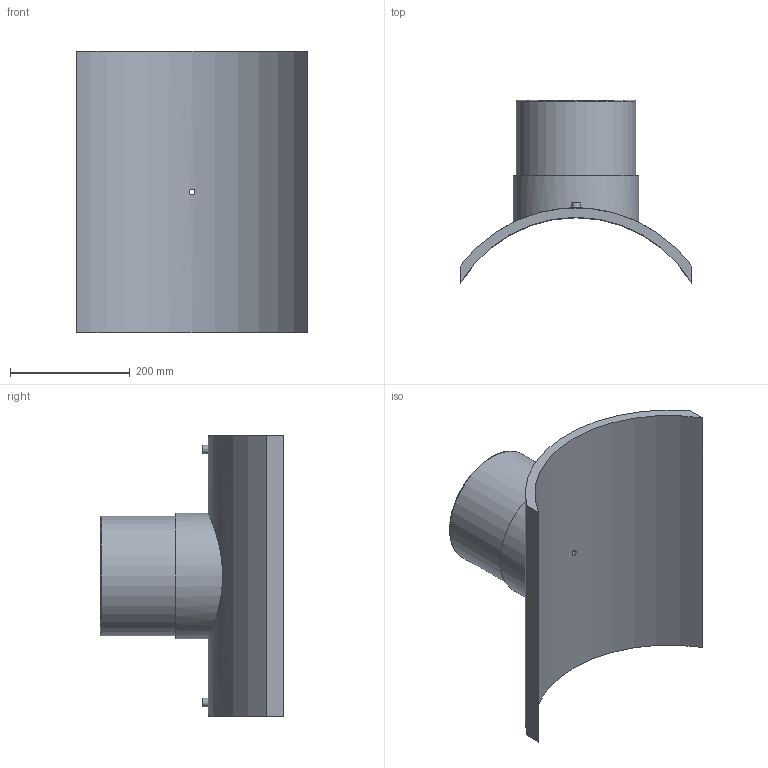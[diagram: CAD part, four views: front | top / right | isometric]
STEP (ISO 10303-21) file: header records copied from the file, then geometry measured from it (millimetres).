
FILE_DESCRIPTION(/* description */ ('PLASSON BRANCH SADDLE 450x200'),/* implementation_level */ '2;1');
FILE_NAME(/* name */ 'C:\Dropbox\KIMPROJECTS-Inventor 2019\99-16-3568-Processing\ElectroFusion Fittings\495803\stp\495803450200T.stp',/* time_stamp */ '2024-04-04T11:50:55+02:00',/* author */ ('KIM'),/* organization */ (''),/* preprocessor_version */ 'ST-DEVELOPER v17.2',/* originating_system */ 'Autodesk Inventor 2019',/* authorisation */ '');
FILE_SCHEMA (('AUTOMOTIVE_DESIGN { 1 0 10303 214 3 1 1 }'));
Length unit declared in the file: millimetre
Products named in the file (1): 495803450200T
Bounding box: 387 x 306.18 x 470 mm (x, y, z)
Volume: 5792003.6 mm3; surface area: 696258.6 mm2
Topology: 1 solids, 1 shells, 29 faces, 60 edges, 43 vertices
Faces by surface type: plane 13, cylinder 12, torus 2, cone 2
Full cylindrical faces by diameter (mm): 4 x2, 9.6 x1, 10 x2, 16 x1, 160 x1, 200 x1, 210 x1
Entity records: 1086 total; most frequent: CARTESIAN_POINT 400, DIRECTION 139, ORIENTED_EDGE 120, EDGE_CURVE 60, AXIS2_PLACEMENT_3D 60, VERTEX_POINT 43, EDGE_LOOP 41, CIRCLE 30
